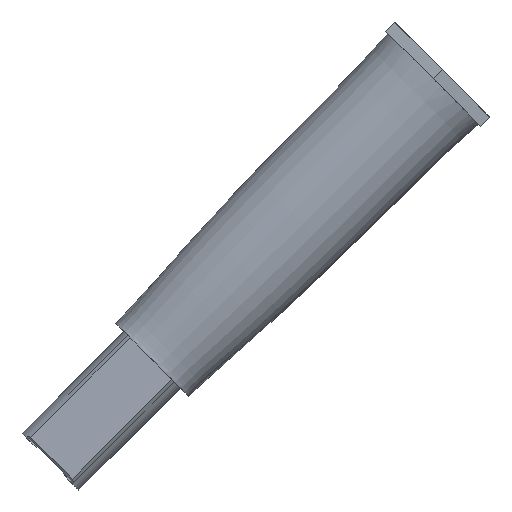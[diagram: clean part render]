
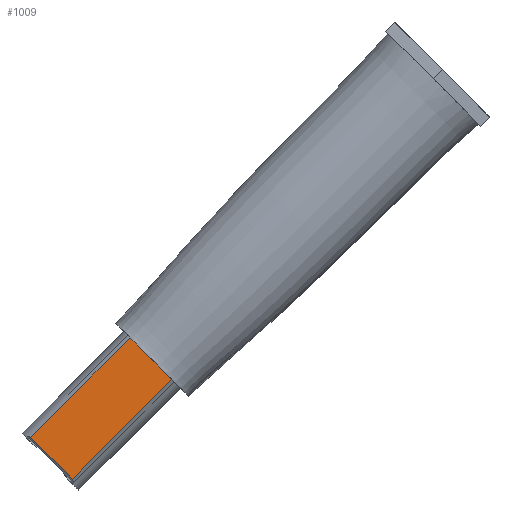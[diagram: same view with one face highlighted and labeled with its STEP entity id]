
A CAD part, top view. The second image highlights one B-rep face of the part: STEP entity #1009.
In plain terms, the highlighted planar face has unit normal (-0.007, 0.007, 1).
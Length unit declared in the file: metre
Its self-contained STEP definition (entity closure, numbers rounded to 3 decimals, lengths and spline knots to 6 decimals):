
#176=ORIENTED_EDGE('',*,*,#454,.T.);
#177=ORIENTED_EDGE('',*,*,#439,.T.);
#178=ORIENTED_EDGE('',*,*,#450,.T.);
#179=ORIENTED_EDGE('',*,*,#455,.F.);
#180=ORIENTED_EDGE('',*,*,#453,.F.);
#181=ORIENTED_EDGE('',*,*,#456,.F.);
#439=EDGE_CURVE('',#578,#577,#670,.T.);
#450=EDGE_CURVE('',#577,#587,#681,.T.);
#453=EDGE_CURVE('',#588,#589,#683,.T.);
#454=EDGE_CURVE('',#590,#578,#684,.T.);
#455=EDGE_CURVE('',#589,#587,#685,.T.);
#456=EDGE_CURVE('',#590,#588,#686,.T.);
#577=VERTEX_POINT('',#1805);
#578=VERTEX_POINT('',#1807);
#587=VERTEX_POINT('',#1829);
#588=VERTEX_POINT('',#1978);
#589=VERTEX_POINT('',#1979);
#590=VERTEX_POINT('',#1983);
#670=LINE('',#1806,#780);
#681=LINE('',#1828,#791);
#683=LINE('',#1980,#793);
#684=LINE('',#1982,#794);
#685=LINE('',#1984,#795);
#686=LINE('',#1985,#796);
#780=VECTOR('',#1191,1.);
#791=VECTOR('',#1206,1.);
#793=VECTOR('',#1210,1.);
#794=VECTOR('',#1213,1.);
#795=VECTOR('',#1214,1.);
#796=VECTOR('',#1215,1.);
#856=EDGE_LOOP('',(#176,#177,#178,#179,#180,#181));
#914=FACE_BOUND('',#856,.T.);
#969=PLANE('',#1072);
#1009=ADVANCED_FACE('',(#914),#969,.F.);
#1072=AXIS2_PLACEMENT_3D('',#1981,#1211,#1212);
#1191=DIRECTION('',(0.707,-0.707,0.01));
#1206=DIRECTION('',(0.707,0.707,0.));
#1210=DIRECTION('',(0.707,-0.707,0.01));
#1211=DIRECTION('',(0.007,-0.007,-1.));
#1212=DIRECTION('',(-1.,0.,-0.007));
#1213=DIRECTION('',(-0.707,-0.707,0.));
#1214=DIRECTION('',(0.707,-0.707,0.01));
#1215=DIRECTION('',(0.707,-0.707,0.01));
#1805=CARTESIAN_POINT('',(-0.154373,-0.116888,0.008622));
#1806=CARTESIAN_POINT('',(-0.161275,-0.109985,0.008522));
#1807=CARTESIAN_POINT('',(-0.167471,-0.10379,0.008432));
#1828=CARTESIAN_POINT('',(-0.121987,-0.084502,0.008622));
#1829=CARTESIAN_POINT('',(-0.123119,-0.085633,0.008622));
#1978=CARTESIAN_POINT('',(-0.131456,-0.077289,0.008501));
#1979=CARTESIAN_POINT('',(-0.127384,-0.081361,0.00856));
#1980=CARTESIAN_POINT('',(-0.130014,-0.078724,0.008522));
#1981=CARTESIAN_POINT('',(-0.12889,-0.0776,0.008522));
#1982=CARTESIAN_POINT('',(-0.135085,-0.071404,0.008432));
#1983=CARTESIAN_POINT('',(-0.136216,-0.072536,0.008432));
#1984=CARTESIAN_POINT('',(-0.135079,-0.073673,0.008449));
#1985=CARTESIAN_POINT('',(-0.135079,-0.073673,0.008449));
